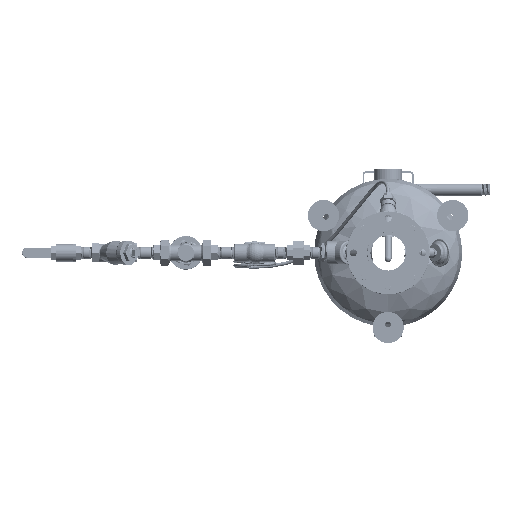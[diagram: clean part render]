
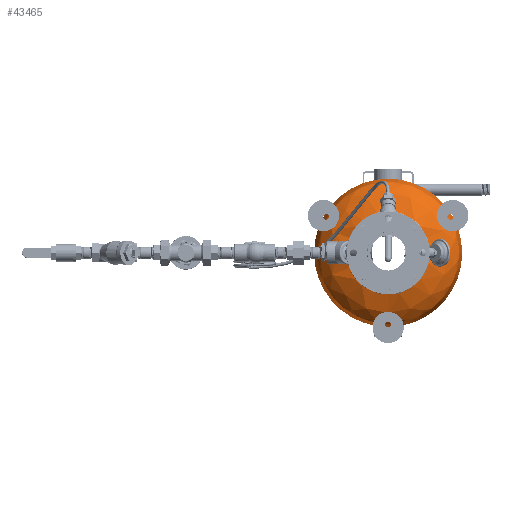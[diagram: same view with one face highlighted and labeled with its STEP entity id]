
A CAD part, front view. The second image highlights one B-rep face of the part: STEP entity #43465.
In plain terms, the highlighted free-form (B-spline) face has degree [2, 2] with [3, 9] control points.
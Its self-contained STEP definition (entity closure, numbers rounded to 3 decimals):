
#781=ELLIPSE('',#46603,8.,4.);
#847=(
BOUNDED_SURFACE()
B_SPLINE_SURFACE(2,2,((#80157,#80158,#80159,#80160,#80161,#80162,#80163,
#80164,#80165),(#80166,#80167,#80168,#80169,#80170,#80171,#80172,#80173,
#80174),(#80175,#80176,#80177,#80178,#80179,#80180,#80181,#80182,#80183)),
 .UNSPECIFIED.,.F.,.T.,.F.)
B_SPLINE_SURFACE_WITH_KNOTS((3,3),(3,2,2,2,3),(0.,1.571),
(0.,1.571,3.142,4.712,6.283),
 .UNSPECIFIED.)
GEOMETRIC_REPRESENTATION_ITEM()
RATIONAL_B_SPLINE_SURFACE(((1.,0.707,1.,0.707,1.,
0.707,1.,0.707,1.),(0.707,0.5,0.707,
0.5,0.707,0.5,0.707,0.5,0.707),(1.,
0.707,1.,0.707,1.,0.707,1.,0.707,
1.)))
REPRESENTATION_ITEM('')
SURFACE()
);
#4482=CIRCLE('',#46604,8.);
#4483=CIRCLE('',#46605,8.);
#6718=FACE_OUTER_BOUND('',#9235,.T.);
#9235=EDGE_LOOP('',(#29597,#29598,#29599,#29600,#29601,#29602));
#16461=B_SPLINE_CURVE_WITH_KNOTS('',3,(#79949,#79950,#79951,#79952,#79953,
#79954,#79955,#79956,#79957,#79958,#79959,#79960,#79961,#79962,#79963,#79964,
#79965,#79966,#79967,#79968),.UNSPECIFIED.,.F.,.F.,(4,2,2,2,2,2,2,2,2,4),
(-27.016,-26.79,-24.558,-22.325,
-20.093,-17.86,-15.628,-13.395,
-11.163,-9.005),.UNSPECIFIED.);
#16462=B_SPLINE_CURVE_WITH_KNOTS('',3,(#79969,#79970,#79971,#79972,#79973,
#79974,#79975,#79976,#79977,#79978,#79979,#79980,#79981,#79982,#79983,#79984,
#79985,#79986,#79987,#79988,#79989,#79990,#79991),.UNSPECIFIED.,.F.,.F.,
(4,2,2,2,2,3,2,2,2,2,4),(-9.005,-8.93,-6.698,
-4.465,-2.233,0.,1.264,2.528,
4.761,6.993,9.),.UNSPECIFIED.);
#18296=VERTEX_POINT('',#79946);
#18297=VERTEX_POINT('',#79948);
#18301=VERTEX_POINT('',#80184);
#18302=VERTEX_POINT('',#80186);
#22723=EDGE_CURVE('',#18297,#18296,#16461,.T.);
#22724=EDGE_CURVE('',#18296,#18297,#16462,.T.);
#22730=EDGE_CURVE('',#18301,#18297,#781,.T.);
#22731=EDGE_CURVE('',#18302,#18301,#4482,.T.);
#22732=EDGE_CURVE('',#18301,#18302,#4483,.T.);
#29597=ORIENTED_EDGE('',*,*,#22723,.T.);
#29598=ORIENTED_EDGE('',*,*,#22724,.T.);
#29599=ORIENTED_EDGE('',*,*,#22730,.F.);
#29600=ORIENTED_EDGE('',*,*,#22731,.F.);
#29601=ORIENTED_EDGE('',*,*,#22732,.F.);
#29602=ORIENTED_EDGE('',*,*,#22730,.T.);
#43465=ADVANCED_FACE('',(#6718),#847,.T.);
#46603=AXIS2_PLACEMENT_3D('',#80185,#51338,#51339);
#46604=AXIS2_PLACEMENT_3D('',#80187,#51340,#51341);
#46605=AXIS2_PLACEMENT_3D('',#80188,#51342,#51343);
#51338=DIRECTION('center_axis',(0.,0.,1.));
#51339=DIRECTION('ref_axis',(1.,0.,0.));
#51340=DIRECTION('center_axis',(0.,-1.,0.));
#51341=DIRECTION('ref_axis',(1.,0.,0.));
#51342=DIRECTION('center_axis',(0.,-1.,0.));
#51343=DIRECTION('ref_axis',(1.,0.,0.));
#79946=CARTESIAN_POINT('',(-2.25,5.839,0.));
#79948=CARTESIAN_POINT('',(2.25,5.839,0.));
#79949=CARTESIAN_POINT('Ctrl Pts',(2.25,5.839,0.));
#79950=CARTESIAN_POINT('Ctrl Pts',(2.25,5.839,0.03));
#79951=CARTESIAN_POINT('Ctrl Pts',(2.249,5.839,0.059));
#79952=CARTESIAN_POINT('Ctrl Pts',(2.237,5.839,0.381));
#79953=CARTESIAN_POINT('Ctrl Pts',(2.168,5.839,0.669));
#79954=CARTESIAN_POINT('Ctrl Pts',(1.924,5.839,1.202));
#79955=CARTESIAN_POINT('Ctrl Pts',(1.752,5.839,1.442));
#79956=CARTESIAN_POINT('Ctrl Pts',(1.324,5.839,1.843));
#79957=CARTESIAN_POINT('Ctrl Pts',(1.073,5.839,1.999));
#79958=CARTESIAN_POINT('Ctrl Pts',(0.525,5.839,2.207));
#79959=CARTESIAN_POINT('Ctrl Pts',(0.234,5.839,2.257));
#79960=CARTESIAN_POINT('Ctrl Pts',(-0.352,5.839,
2.242));
#79961=CARTESIAN_POINT('Ctrl Pts',(-0.641,5.839,
2.177));
#79962=CARTESIAN_POINT('Ctrl Pts',(-1.177,5.839,1.94));
#79963=CARTESIAN_POINT('Ctrl Pts',(-1.419,5.839,1.771));
#79964=CARTESIAN_POINT('Ctrl Pts',(-1.825,5.839,1.348));
#79965=CARTESIAN_POINT('Ctrl Pts',(-1.985,5.839,1.099));
#79966=CARTESIAN_POINT('Ctrl Pts',(-2.197,5.839,0.563));
#79967=CARTESIAN_POINT('Ctrl Pts',(-2.25,5.839,0.283));
#79968=CARTESIAN_POINT('Ctrl Pts',(-2.25,5.839,0.));
#79969=CARTESIAN_POINT('Ctrl Pts',(-2.25,5.839,0.));
#79970=CARTESIAN_POINT('Ctrl Pts',(-2.25,5.839,-0.01));
#79971=CARTESIAN_POINT('Ctrl Pts',(-2.25,5.839,-0.02));
#79972=CARTESIAN_POINT('Ctrl Pts',(-2.246,5.839,-0.322));
#79973=CARTESIAN_POINT('Ctrl Pts',(-2.185,5.839,-0.612));
#79974=CARTESIAN_POINT('Ctrl Pts',(-1.955,5.839,-1.151));
#79975=CARTESIAN_POINT('Ctrl Pts',(-1.789,5.839,-1.396));
#79976=CARTESIAN_POINT('Ctrl Pts',(-1.372,5.839,-1.807));
#79977=CARTESIAN_POINT('Ctrl Pts',(-1.125,5.839,-1.97));
#79978=CARTESIAN_POINT('Ctrl Pts',(-0.583,5.839,
-2.193));
#79979=CARTESIAN_POINT('Ctrl Pts',(-0.293,5.839,
-2.25));
#79980=CARTESIAN_POINT('Ctrl Pts',(0.,5.839,
-2.25));
#79981=CARTESIAN_POINT('Ctrl Pts',(0.166,5.839,-2.25));
#79982=CARTESIAN_POINT('Ctrl Pts',(0.331,5.839,-2.232));
#79983=CARTESIAN_POINT('Ctrl Pts',(0.655,5.839,-2.159));
#79984=CARTESIAN_POINT('Ctrl Pts',(0.812,5.839,-2.105));
#79985=CARTESIAN_POINT('Ctrl Pts',(1.227,5.839,-1.909));
#79986=CARTESIAN_POINT('Ctrl Pts',(1.465,5.839,-1.733));
#79987=CARTESIAN_POINT('Ctrl Pts',(1.86,5.839,-1.3));
#79988=CARTESIAN_POINT('Ctrl Pts',(2.013,5.839,-1.047));
#79989=CARTESIAN_POINT('Ctrl Pts',(2.204,5.839,-0.524));
#79990=CARTESIAN_POINT('Ctrl Pts',(2.25,5.839,-0.263));
#79991=CARTESIAN_POINT('Ctrl Pts',(2.25,5.839,0.));
#80157=CARTESIAN_POINT('Ctrl Pts',(8.,2.,0.));
#80158=CARTESIAN_POINT('Ctrl Pts',(8.,2.,8.));
#80159=CARTESIAN_POINT('Ctrl Pts',(0.,2.,8.));
#80160=CARTESIAN_POINT('Ctrl Pts',(-8.,2.,8.));
#80161=CARTESIAN_POINT('Ctrl Pts',(-8.,2.,0.));
#80162=CARTESIAN_POINT('Ctrl Pts',(-8.,2.,-8.));
#80163=CARTESIAN_POINT('Ctrl Pts',(0.,2.,-8.));
#80164=CARTESIAN_POINT('Ctrl Pts',(8.,2.,-8.));
#80165=CARTESIAN_POINT('Ctrl Pts',(8.,2.,0.));
#80166=CARTESIAN_POINT('Ctrl Pts',(8.,6.,0.));
#80167=CARTESIAN_POINT('Ctrl Pts',(8.,6.,8.));
#80168=CARTESIAN_POINT('Ctrl Pts',(0.,6.,8.));
#80169=CARTESIAN_POINT('Ctrl Pts',(-8.,6.,8.));
#80170=CARTESIAN_POINT('Ctrl Pts',(-8.,6.,0.));
#80171=CARTESIAN_POINT('Ctrl Pts',(-8.,6.,-8.));
#80172=CARTESIAN_POINT('Ctrl Pts',(0.,6.,-8.));
#80173=CARTESIAN_POINT('Ctrl Pts',(8.,6.,-8.));
#80174=CARTESIAN_POINT('Ctrl Pts',(8.,6.,0.));
#80175=CARTESIAN_POINT('Ctrl Pts',(0.,6.,0.));
#80176=CARTESIAN_POINT('Ctrl Pts',(0.,6.,0.));
#80177=CARTESIAN_POINT('Ctrl Pts',(0.,6.,0.));
#80178=CARTESIAN_POINT('Ctrl Pts',(0.,6.,0.));
#80179=CARTESIAN_POINT('Ctrl Pts',(0.,6.,0.));
#80180=CARTESIAN_POINT('Ctrl Pts',(0.,6.,0.));
#80181=CARTESIAN_POINT('Ctrl Pts',(0.,6.,0.));
#80182=CARTESIAN_POINT('Ctrl Pts',(0.,6.,0.));
#80183=CARTESIAN_POINT('Ctrl Pts',(0.,6.,0.));
#80184=CARTESIAN_POINT('',(8.,2.,0.));
#80185=CARTESIAN_POINT('Origin',(0.,2.,0.));
#80186=CARTESIAN_POINT('',(-8.,2.,0.));
#80187=CARTESIAN_POINT('Origin',(0.,2.,0.));
#80188=CARTESIAN_POINT('Origin',(0.,2.,0.));
